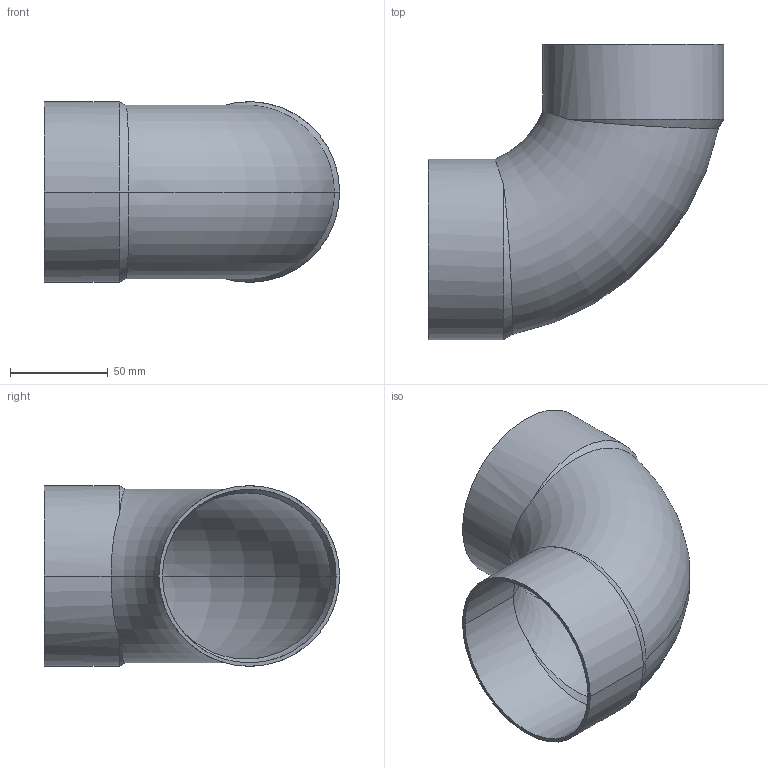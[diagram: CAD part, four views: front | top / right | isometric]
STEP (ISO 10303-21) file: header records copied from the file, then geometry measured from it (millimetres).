
FILE_DESCRIPTION((''),'2;1');
FILE_NAME('G:\SANHA-TERNAT\Technik\Deckel\UUU\Producttek\1509089\1509089(0).stp','2007-07-16T11:51:47',('vdvijverd'),(''),'Autodesk Inventor 8','Autodesk Inventor 8','');
FILE_SCHEMA(('AUTOMOTIVE_DESIGN { 1 0 10303 214 1 1 1 1 }'));
Length unit declared in the file: millimetre
Products named in the file (1): 1509089(0)
Bounding box: 151.15 x 151.15 x 92.5 mm (x, y, z)
Volume: 93168.5 mm3; surface area: 98495.3 mm2
Topology: 1 solids, 1 shells, 22 faces, 53 edges, 33 vertices
Faces by surface type: bspline 9, torus 4, cylinder 4, cone 4, plane 1
Entity records: 921 total; most frequent: CARTESIAN_POINT 436, ORIENTED_EDGE 106, DIRECTION 82, EDGE_CURVE 53, AXIS2_PLACEMENT_3D 35, VERTEX_POINT 33, EDGE_LOOP 24, FACE_OUTER_BOUND 22
